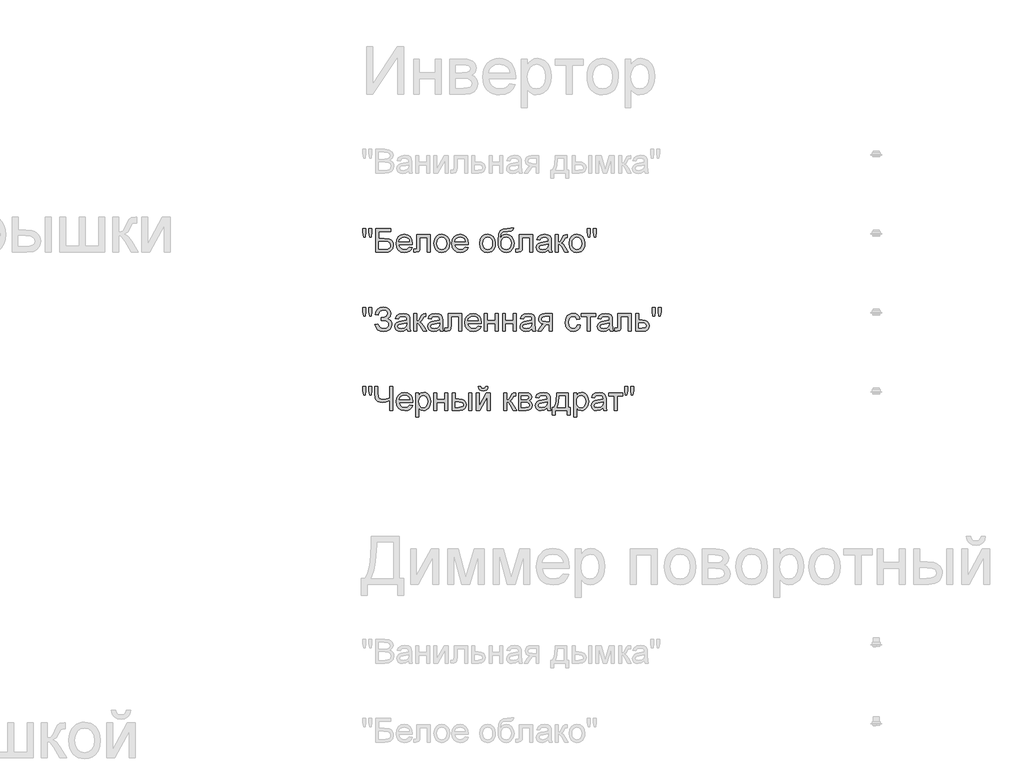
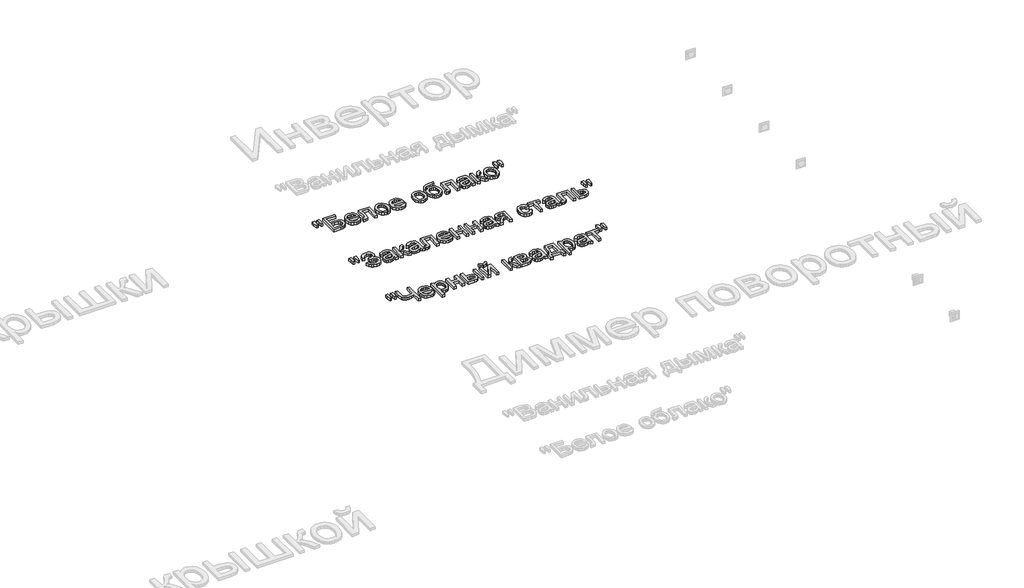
# One storey, part 164 of 168: 3 proxies.
"""IFC4 building model written with IfcOpenShell, lengths in millimetres."""

from ifc_helpers import new_model, si_unit, origin, origin_with_axes, place, context, project, spatial, polyline, outline, extrude, element, save

model = new_model("IFC4")

# Units and contexts
model_context = context("Model", 3, world=origin())
ifc_project = project(units=[si_unit("LENGTHUNIT", "METRE", prefix="MILLI")], contexts=[model_context])

# Site, building, storey
site = spatial("IfcSite", under=ifc_project)
building = spatial("IfcBuilding", under=site)
storey = spatial("IfcBuildingStorey", under=building, Name="Этаж 01", Elevation=0.0)

# Proxies
placement = place(None, origin())
element("IfcBuildingElementProxy", 1, Name="150", ObjectType="150", at=placement, inside=storey, context=model_context, shape_type="SweptSolid", body=[
    extrude(outline(polyline([(71080.1485789, -5951.873446), (71075.550054, -5922.7739802), (71075.550054, -5897.7212163), (71094.3856121, -5897.7212163), (71094.3856121, -5922.7739802), (71090.2653338, -5951.873446), (71080.1485789, -5951.873446)])), origin_with_axes(), (0.0, 0.0, 1.0), 20.0),
    extrude(outline(polyline([(71117.7093306, -5951.873446), (71113.2211703, -5922.7739802), (71113.2211703, -5897.7212163), (71132.0567284, -5897.7212163), (71132.0567284, -5922.7739802), (71127.6421445, -5951.873446), (71117.7093306, -5951.873446)])), origin_with_axes(), (0.0, 0.0, 1.0), 20.0),
    extrude(outline(polyline([(71157.9556209, -5897.7212163), (71252.1334117, -5897.7212163), (71252.1334117, -5916.5567745), (71176.791179, -5916.5567745), (71176.791179, -5961.2912251), (71212.0710624, -5961.2912251), (71243.157091, -5965.1171979), (71253.5589544, -5970.6446248), (71261.6615553, -5979.5749603), (71266.8762826, -5991.0712726), (71268.614525, -6004.2966303), (71263.6665122, -6025.7625448), (71248.8960501, -6042.0781113), (71235.6247071, -6046.823789), (71215.4555767, -6048.4056816), (71157.9556209, -6048.4056816), (71157.9556209, -5897.7212163)]), holes=[polyline([(71176.791179, -6029.5701234), (71217.1478339, -6029.5701234), (71231.4124583, -6028.015822), (71241.6119866, -6023.3529177), (71247.7372218, -6015.5814105), (71249.7789669, -6004.7013005), (71245.1068655, -5989.9492325), (71232.102237, -5982.0765578), (71203.7201411, -5980.1267833), (71176.791179, -5980.1267833), (71176.791179, -6029.5701234)])]), origin_with_axes(), (0.0, 0.0, 1.0), 20.0),
    extrude(outline(polyline([(71369.6349209, -6015.4434548), (71388.1025971, -6017.7978996), (71381.4485315, -6031.713036), (71370.8305374, -6042.1148995), (71356.4877381, -6048.5988196), (71338.6592569, -6050.7601263), (71316.5587461, -6047.0307226), (71299.5534008, -6035.8425114), (71288.710079, -6017.9220597), (71285.0956384, -5993.9959345), (71288.7468672, -5969.2650674), (71299.7005536, -5950.7698), (71316.4759726, -5939.2366995), (71337.5923991, -5935.3923327), (71358.0512366, -5939.2275025), (71374.3989927, -5950.7330118), (71385.1181544, -5969.191491), (71388.6912083, -5993.8855699), (71388.5808437, -5998.9623414), (71303.9311966, -5998.9623414), (71307.1915508, -6013.0614189), (71314.7653213, -6023.4264941), (71325.6960151, -6029.8000497), (71339.0271389, -6031.9245682), (71357.4948151, -6027.9882308), (71369.6349209, -6015.4434548)]), holes=[polyline([(71303.9311966, -5980.1267833), (71369.8556501, -5980.1267833), (71367.3080673, -5970.1755753), (71362.3140692, -5963.0570587), (71351.3327917, -5956.4351828), (71337.5188227, -5954.2278908), (71324.8222954, -5955.9891259), (71314.3238629, -5961.272831), (71307.0260039, -5969.5087892), (71303.9311966, -5980.1267833)])]), origin_with_axes(), (0.0, 0.0, 1.0), 20.0),
    extrude(outline(polyline([(71416.9445455, -5937.7467774), (71501.7045572, -5937.7467774), (71501.7045572, -6048.295317), (71482.868999, -6048.295317), (71482.868999, -5956.5823356), (71435.7801036, -5956.5823356), (71435.7801036, -6009.3734019), (71434.5109108, -6033.72719), (71427.539547, -6044.0094917), (71411.0584336, -6048.4056816), (71395.7545426, -6047.4491884), (71395.7545426, -6029.5701234), (71404.1790403, -6029.5701234), (71412.6955084, -6028.4112951), (71416.0984169, -6024.7324752), (71416.9445455, -6008.3065441), (71416.9445455, -5937.7467774)])), origin_with_axes(), (0.0, 0.0, 1.0), 20.0),
    extrude(outline(polyline([(71525.2490049, -5993.0762295), (71529.323298, -5966.3955878), (71541.5461773, -5947.6428031), (71556.6477332, -5938.4549503), (71574.7291332, -5935.3923327), (71594.516586, -5939.1217364), (71610.3217163, -5950.3099476), (71620.6821929, -5968.0740494), (71624.1356852, -5991.5311251), (71622.6089749, -6010.5598213), (71618.0288441, -6025.0451749), (71610.5286499, -6035.8930952), (71600.2417496, -6044.0094917), (71588.0234688, -6049.0724677), (71574.7291332, -6050.7601263), (71554.7025571, -6047.0445182), (71538.915821, -6035.8976937), (71528.6657089, -6017.7611114), (71525.2490049, -5993.0762295)]), holes=[polyline([(71544.084563, -5993.0394413), (71546.2642638, -6010.0861732), (71552.8033663, -6022.2308776), (71562.6442097, -6029.5011455), (71574.7291332, -6031.9245682), (71586.7588745, -6029.48735), (71596.5813237, -6022.1756953), (71603.1204262, -6009.8700426), (71605.300127, -5992.4508301), (71603.1066306, -5975.9007388), (71596.5261414, -5963.9215814), (71586.6898966, -5956.6513134), (71574.7291332, -5954.2278908), (71562.6442097, -5956.6421164), (71552.8033663, -5963.8847932), (71546.2642638, -5976.0019064), (71544.084563, -5993.0394413)])]), origin_with_axes(), (0.0, 0.0, 1.0), 20.0),
    extrude(outline(polyline([(71722.8016363, -6015.4434548), (71741.2693124, -6017.7978996), (71734.6152469, -6031.713036), (71723.9972528, -6042.1148995), (71709.6544535, -6048.5988196), (71691.8259723, -6050.7601263), (71669.7254614, -6047.0307226), (71652.7201162, -6035.8425114), (71641.8767944, -6017.9220597), (71638.2623538, -5993.9959345), (71641.9135826, -5969.2650674), (71652.867269, -5950.7698), (71669.642688, -5939.2366995), (71690.7591145, -5935.3923327), (71711.217952, -5939.2275025), (71727.5657081, -5950.7330118), (71738.2848698, -5969.191491), (71741.8579236, -5993.8855699), (71741.747559, -5998.9623414), (71657.0979119, -5998.9623414), (71660.3582661, -6013.0614189), (71667.9320367, -6023.4264941), (71678.8627305, -6029.8000497), (71692.1938543, -6031.9245682), (71710.6615304, -6027.9882308), (71722.8016363, -6015.4434548)]), holes=[polyline([(71657.0979119, -5980.1267833), (71723.0223655, -5980.1267833), (71720.4747827, -5970.1755753), (71715.4807846, -5963.0570587), (71704.499507, -5956.4351828), (71690.6855381, -5954.2278908), (71677.9890107, -5955.9891259), (71667.4905783, -5961.272831), (71660.1927192, -5969.5087892), (71657.0979119, -5980.1267833)])]), origin_with_axes(), (0.0, 0.0, 1.0), 20.0),
    extrude(outline(polyline([(71814.8457115, -5993.0762295), (71818.9200046, -5966.3955878), (71831.1428839, -5947.6428031), (71846.2444398, -5938.4549503), (71864.3258398, -5935.3923327), (71884.1132926, -5939.1217364), (71899.9184229, -5950.3099476), (71910.2788995, -5968.0740494), (71913.7323918, -5991.5311251), (71912.2056815, -6010.5598213), (71907.6255507, -6025.0451749), (71900.1253565, -6035.8930952), (71889.8384562, -6044.0094917), (71877.6201754, -6049.0724677), (71864.3258398, -6050.7601263), (71844.2992637, -6047.0445182), (71828.5125276, -6035.8976937), (71818.2624155, -6017.7611114), (71814.8457115, -5993.0762295)]), holes=[polyline([(71833.6812696, -5993.0394413), (71835.8609704, -6010.0861732), (71842.4000729, -6022.2308776), (71852.2409163, -6029.5011455), (71864.3258398, -6031.9245682), (71876.3555811, -6029.48735), (71886.1780303, -6022.1756953), (71892.7171328, -6009.8700426), (71894.8968336, -5992.4508301), (71892.7033372, -5975.9007388), (71886.122848, -5963.9215814), (71876.2866032, -5956.6513134), (71864.3258398, -5954.2278908), (71852.2409163, -5956.6421164), (71842.4000729, -5963.8847932), (71835.8609704, -5976.0019064), (71833.6812696, -5993.0394413)])]), origin_with_axes(), (0.0, 0.0, 1.0), 20.0),
    extrude(outline(polyline([(72012.6190721, -5895.3667716), (72029.1001855, -5895.3667716), (72024.2441431, -5910.0636573), (72014.6424231, -5915.3795521), (71991.576222, -5916.5567745), (71960.5085875, -5920.897782), (71953.3808738, -5926.5447707), (71948.5892108, -5934.8037215), (71944.560903, -5959.4150269), (71960.8764695, -5941.3888092), (71970.7954878, -5936.8914518), (71981.9009255, -5935.3923327), (72001.4998388, -5939.2045098), (72017.401538, -5950.6410414), (72027.9413572, -5968.5798871), (72031.4546302, -5991.8990071), (72029.7117893, -6009.8792396), (72024.4832664, -6024.3094109), (72007.9469707, -6043.8623389), (71996.6529935, -6049.0356795), (71981.9009255, -6050.7601263), (71964.9001788, -6048.5390388), (71952.1576662, -6041.8757762), (71942.7812738, -6031.7498242), (71935.8788879, -6019.1406689), (71931.6298508, -6000.1533594), (71930.2135052, -5970.8929452), (71933.786559, -5934.7531377), (71944.5057207, -5912.7124076), (71962.6377045, -5901.4690142), (71988.449225, -5897.7212163), (72009.4184987, -5897.2981521), (72012.6190721, -5895.3667716)]), holes=[polyline([(72012.6190721, -5991.3103959), (72010.577327, -5976.48935), (72004.4520918, -5964.6205572), (71994.6112484, -5956.8260574), (71981.4226789, -5954.2278908), (71967.6730893, -5956.9732102), (71957.473561, -5965.2091684), (71951.1551877, -5978.0344544), (71949.0490633, -5994.5477575), (71951.3759169, -6010.5552228), (71958.3564778, -6022.304454), (71968.7491442, -6029.5195396), (71981.3123143, -6031.9245682), (71993.9398638, -6029.1424606), (72003.937057, -6020.7961378), (72010.4485683, -6007.8604872), (72012.6190721, -5991.3103959)])]), origin_with_axes(), (0.0, 0.0, 1.0), 20.0),
    extrude(outline(polyline([(72064.416857, -5937.7467774), (72149.1768687, -5937.7467774), (72149.1768687, -6048.295317), (72130.3413105, -6048.295317), (72130.3413105, -5956.5823356), (72083.2524152, -5956.5823356), (72083.2524152, -6009.3734019), (72081.9832223, -6033.72719), (72075.0118585, -6044.0094917), (72058.5307451, -6048.4056816), (72043.2268541, -6047.4491884), (72043.2268541, -6029.5701234), (72051.6513518, -6029.5701234), (72060.16782, -6028.4112951), (72063.5707284, -6024.7324752), (72064.416857, -6008.3065441), (72064.416857, -5937.7467774)])), origin_with_axes(), (0.0, 0.0, 1.0), 20.0),
    extrude(outline(polyline([(72248.063549, -6034.279013), (72229.7982079, -6047.0445182), (72209.6198805, -6050.7601263), (72193.8791296, -6048.5252432), (72182.2678542, -6041.8205939), (72175.1079508, -6031.6394596), (72172.7213164, -6018.975122), (72176.3265599, -6004.0759012), (72185.7995213, -5993.2601705), (72198.9880908, -5987.079753), (72215.2852632, -5984.2470616), (72247.9531844, -5977.7723385), (72248.063549, -5973.5784838), (72246.766765, -5965.1723802), (72242.8764129, -5959.6725443), (72234.1760037, -5955.5890542), (72222.0542919, -5954.2278908), (72202.9980046, -5957.8515285), (72193.9113193, -5970.7090042), (72175.0757612, -5968.3545594), (72183.2243473, -5949.9604597), (72199.6318843, -5939.1815172), (72224.4823131, -5935.3923327), (72247.3093909, -5938.7400588), (72260.2036548, -5947.1461624), (72265.9794022, -5959.9300617), (72266.8991071, -5976.4111751), (72266.8991071, -5999.8452582), (72267.8556003, -6032.5683617), (72271.6079967, -6048.4056816), (72252.7724385, -6048.4056816), (72248.063549, -6034.279013)]), holes=[polyline([(72248.063549, -5996.6078966), (72217.6764962, -6002.383644), (72201.4712943, -6005.4370645), (72194.1320485, -6010.4034715), (72191.5568745, -6017.6507468), (72197.167075, -6027.841078), (72213.6297942, -6031.9245682), (72232.6860816, -6027.4180137), (72244.9733402, -6016.5103126), (72247.9531844, -6001.9421856), (72248.063549, -5996.6078966)])]), origin_with_axes(), (0.0, 0.0, 1.0), 20.0),
    extrude(outline(polyline([(72292.7979996, -5937.7467774), (72311.6335578, -5937.7467774), (72311.6335578, -5984.8356728), (72324.2519102, -5981.4511584), (72334.5893943, -5961.7326835), (72343.1794388, -5944.7181412), (72350.7578079, -5939.1815172), (72364.5349887, -5937.7467774), (72368.1402322, -5937.7467774), (72368.1402322, -5956.6927002), (72363.0634607, -5956.5823356), (72353.8664108, -5958.5688983), (72347.3916877, -5970.9665216), (72339.7949245, -5984.3758203), (72329.1447407, -5990.9425139), (72341.0273292, -5998.2725627), (72352.6891884, -6013.7144094), (72372.8491218, -6048.4056816), (72351.4383896, -6048.4056816), (72331.6831265, -6014.4501734), (72321.7503126, -6000.0843815), (72311.6335578, -5996.6078966), (72311.6335578, -6048.4056816), (72292.7979996, -6048.4056816), (72292.7979996, -5937.7467774)])), origin_with_axes(), (0.0, 0.0, 1.0), 20.0),
    extrude(outline(polyline([(72379.9124561, -5993.0762295), (72383.9867492, -5966.3955878), (72396.2096285, -5947.6428031), (72411.3111844, -5938.4549503), (72429.3925844, -5935.3923327), (72449.1800372, -5939.1217364), (72464.9851674, -5950.3099476), (72475.3456441, -5968.0740494), (72478.7991364, -5991.5311251), (72477.2724261, -6010.5598213), (72472.6922952, -6025.0451749), (72465.1921011, -6035.8930952), (72454.9052008, -6044.0094917), (72442.68692, -6049.0724677), (72429.3925844, -6050.7601263), (72409.3660083, -6047.0445182), (72393.5792722, -6035.8976937), (72383.3291601, -6017.7611114), (72379.9124561, -5993.0762295)]), holes=[polyline([(72398.7480142, -5993.0394413), (72400.927715, -6010.0861732), (72407.4668175, -6022.2308776), (72417.3076609, -6029.5011455), (72429.3925844, -6031.9245682), (72441.4223257, -6029.48735), (72451.2447749, -6022.1756953), (72457.7838774, -6009.8700426), (72459.9635782, -5992.4508301), (72457.7700818, -5975.9007388), (72451.1895926, -5963.9215814), (72441.3533478, -5956.6513134), (72429.3925844, -5954.2278908), (72417.3076609, -5956.6421164), (72407.4668175, -5963.8847932), (72400.927715, -5976.0019064), (72398.7480142, -5993.0394413)])]), origin_with_axes(), (0.0, 0.0, 1.0), 20.0),
    extrude(outline(polyline([(72499.8787747, -5951.873446), (72495.2802498, -5922.7739802), (72495.2802498, -5897.7212163), (72514.1158079, -5897.7212163), (72514.1158079, -5922.7739802), (72509.9955296, -5951.873446), (72499.8787747, -5951.873446)])), origin_with_axes(), (0.0, 0.0, 1.0), 20.0),
    extrude(outline(polyline([(72537.4395264, -5951.873446), (72532.9513661, -5922.7739802), (72532.9513661, -5897.7212163), (72551.7869242, -5897.7212163), (72551.7869242, -5922.7739802), (72547.3723403, -5951.873446), (72537.4395264, -5951.873446)])), origin_with_axes(), (0.0, 0.0, 1.0), 20.0),
])
element("IfcBuildingElementProxy", 2, Name="150", ObjectType="150", at=placement, inside=storey, context=model_context, shape_type="SweptSolid", body=[
    extrude(outline(polyline([(71080.1485789, -6451.873446), (71075.550054, -6422.7739802), (71075.550054, -6397.7212163), (71094.3856121, -6397.7212163), (71094.3856121, -6422.7739802), (71090.2653338, -6451.873446), (71080.1485789, -6451.873446)])), origin_with_axes(), (0.0, 0.0, 1.0), 20.0),
    extrude(outline(polyline([(71117.7093306, -6451.873446), (71113.2211703, -6422.7739802), (71113.2211703, -6397.7212163), (71132.0567284, -6397.7212163), (71132.0567284, -6422.7739802), (71127.6421445, -6451.873446), (71117.7093306, -6451.873446)])), origin_with_axes(), (0.0, 0.0, 1.0), 20.0),
    extrude(outline(polyline([(71150.8922866, -6506.0256757), (71169.7278447, -6501.3167862), (71181.2977335, -6521.7158428), (71192.2284273, -6529.3723868), (71206.2217387, -6531.9245682), (71220.398991, -6530.0069833), (71231.2193202, -6524.2542286), (71238.0757209, -6515.7883442), (71240.3611878, -6505.7313701), (71237.8641888, -6495.1961495), (71230.3731916, -6487.0613589), (71218.5779752, -6481.8604272), (71203.1683181, -6480.1267833), (71193.2722924, -6480.1267833), (71193.2722924, -6461.2912251), (71214.591054, -6459.7645148), (71227.6324708, -6451.9654165), (71233.2978535, -6437.7099892), (71231.4124583, -6428.8394346), (71225.7562726, -6421.2104817), (71216.8811195, -6415.9543677), (71205.3388219, -6414.2023297), (71186.1169876, -6419.591801), (71175.117316, -6433.8840165), (71172.0822895, -6447.1645565), (71153.2467313, -6442.455667), (71159.0983543, -6421.8542752), (71169.7002536, -6407.1389954), (71185.0524291, -6398.3098275), (71205.1548809, -6395.3667716), (71224.5468605, -6398.4247907), (71239.4598769, -6407.5988479), (71248.965028, -6420.8655924), (71252.1334117, -6436.201673), (71247.2037929, -6454.8440931), (71232.4149367, -6468.7592296), (71242.8903765, -6473.5830823), (71251.5080123, -6481.7270699), (71257.2745625, -6492.4922168), (71259.196746, -6505.1795471), (71255.508729, -6523.0172254), (71244.444678, -6537.6819214), (71227.2921799, -6547.4905751), (71205.3388219, -6550.7601263), (71186.2365493, -6547.9642232), (71170.7947025, -6539.5765137), (71159.0132816, -6525.5969979), (71150.8922866, -6506.0256757)])), origin_with_axes(), (0.0, 0.0, 1.0), 20.0),
    extrude(outline(polyline([(71353.3745367, -6534.279013), (71335.1091957, -6547.0445182), (71314.9308682, -6550.7601263), (71299.1901174, -6548.5252432), (71287.5788419, -6541.8205939), (71280.4189386, -6531.6394596), (71278.0323041, -6518.975122), (71281.6375477, -6504.0759012), (71291.110509, -6493.2601705), (71304.2990786, -6487.079753), (71320.596251, -6484.2470616), (71353.2641721, -6477.7723385), (71353.3745367, -6473.5784838), (71352.0777527, -6465.1723802), (71348.1874006, -6459.6725443), (71339.4869914, -6455.5890542), (71327.3652797, -6454.2278908), (71308.3089923, -6457.8515285), (71299.222307, -6470.7090042), (71280.3867489, -6468.3545594), (71288.5353351, -6449.9604597), (71304.9428721, -6439.1815172), (71329.7933008, -6435.3923327), (71352.6203786, -6438.7400588), (71365.5146426, -6447.1461624), (71371.2903899, -6459.9300617), (71372.2100949, -6476.4111751), (71372.2100949, -6499.8452582), (71373.1665881, -6532.5683617), (71376.9189844, -6548.4056816), (71358.0834263, -6548.4056816), (71353.3745367, -6534.279013)]), holes=[polyline([(71353.3745367, -6496.6078966), (71322.9874839, -6502.383644), (71306.782282, -6505.4370645), (71299.4430362, -6510.4034715), (71296.8678623, -6517.6507468), (71302.4780627, -6527.841078), (71318.940782, -6531.9245682), (71337.9970693, -6527.4180137), (71350.284328, -6516.5103126), (71353.2641721, -6501.9421856), (71353.3745367, -6496.6078966)])]), origin_with_axes(), (0.0, 0.0, 1.0), 20.0),
    extrude(outline(polyline([(71398.1089873, -6437.7467774), (71416.9445455, -6437.7467774), (71416.9445455, -6484.8356728), (71429.5628979, -6481.4511584), (71439.900382, -6461.7326835), (71448.4904266, -6444.7181412), (71456.0687957, -6439.1815172), (71469.8459764, -6437.7467774), (71473.4512199, -6437.7467774), (71473.4512199, -6456.6927002), (71468.3744484, -6456.5823356), (71459.1773985, -6458.5688983), (71452.7026754, -6470.9665216), (71445.1059122, -6484.3758203), (71434.4557285, -6490.9425139), (71446.3383169, -6498.2725627), (71458.0001762, -6513.7144094), (71478.1601095, -6548.4056816), (71456.7493774, -6548.4056816), (71436.9941142, -6514.4501734), (71427.0613004, -6500.0843815), (71416.9445455, -6496.6078966), (71416.9445455, -6548.4056816), (71398.1089873, -6548.4056816), (71398.1089873, -6437.7467774)])), origin_with_axes(), (0.0, 0.0, 1.0), 20.0),
    extrude(outline(polyline([(71560.5656764, -6534.279013), (71542.3003353, -6547.0445182), (71522.1220079, -6550.7601263), (71506.381257, -6548.5252432), (71494.7699816, -6541.8205939), (71487.6100782, -6531.6394596), (71485.2234438, -6518.975122), (71488.8286873, -6504.0759012), (71498.3016487, -6493.2601705), (71511.4902183, -6487.079753), (71527.7873906, -6484.2470616), (71560.4553118, -6477.7723385), (71560.5656764, -6473.5784838), (71559.2688924, -6465.1723802), (71555.3785403, -6459.6725443), (71546.6781311, -6455.5890542), (71534.5564193, -6454.2278908), (71515.500132, -6457.8515285), (71506.4134467, -6470.7090042), (71487.5778886, -6468.3545594), (71495.7264748, -6449.9604597), (71512.1340117, -6439.1815172), (71536.9844405, -6435.3923327), (71559.8115183, -6438.7400588), (71572.7057822, -6447.1461624), (71578.4815296, -6459.9300617), (71579.4012346, -6476.4111751), (71579.4012346, -6499.8452582), (71580.3577277, -6532.5683617), (71584.1101241, -6548.4056816), (71565.2745659, -6548.4056816), (71560.5656764, -6534.279013)]), holes=[polyline([(71560.5656764, -6496.6078966), (71530.1786236, -6502.383644), (71513.9734217, -6505.4370645), (71506.6341759, -6510.4034715), (71504.0590019, -6517.6507468), (71509.6692024, -6527.841078), (71526.1319217, -6531.9245682), (71545.188209, -6527.4180137), (71557.4754676, -6516.5103126), (71560.4553118, -6501.9421856), (71560.5656764, -6496.6078966)])]), origin_with_axes(), (0.0, 0.0, 1.0), 20.0),
    extrude(outline(polyline([(71614.7179061, -6437.7467774), (71699.4779178, -6437.7467774), (71699.4779178, -6548.295317), (71680.6423596, -6548.295317), (71680.6423596, -6456.5823356), (71633.5534643, -6456.5823356), (71633.5534643, -6509.3734019), (71632.2842714, -6533.72719), (71625.3129076, -6544.0094917), (71608.8317942, -6548.4056816), (71593.5279032, -6547.4491884), (71593.5279032, -6529.5701234), (71601.9524009, -6529.5701234), (71610.4688691, -6528.4112951), (71613.8717775, -6524.7324752), (71614.7179061, -6508.3065441), (71614.7179061, -6437.7467774)])), origin_with_axes(), (0.0, 0.0, 1.0), 20.0),
    extrude(outline(polyline([(71805.2072032, -6515.4434548), (71823.6748794, -6517.7978996), (71817.0208138, -6531.713036), (71806.4028197, -6542.1148995), (71792.0600204, -6548.5988196), (71774.2315392, -6550.7601263), (71752.1310283, -6547.0307226), (71735.1256831, -6535.8425114), (71724.2823613, -6517.9220597), (71720.6679207, -6493.9959345), (71724.3191495, -6469.2650674), (71735.2728359, -6450.7698), (71752.0482549, -6439.2366995), (71773.1646814, -6435.3923327), (71793.6235189, -6439.2275025), (71809.971275, -6450.7330118), (71820.6904367, -6469.191491), (71824.2634906, -6493.8855699), (71824.153126, -6498.9623414), (71739.5034789, -6498.9623414), (71742.763833, -6513.0614189), (71750.3376036, -6523.4264941), (71761.2682974, -6529.8000497), (71774.5994212, -6531.9245682), (71793.0670974, -6527.9882308), (71805.2072032, -6515.4434548)]), holes=[polyline([(71739.5034789, -6480.1267833), (71805.4279324, -6480.1267833), (71802.8803496, -6470.1755753), (71797.8863515, -6463.0570587), (71786.9050739, -6456.4351828), (71773.091105, -6454.2278908), (71760.3945777, -6455.9891259), (71749.8961452, -6461.272831), (71742.5982861, -6469.5087892), (71739.5034789, -6480.1267833)])]), origin_with_axes(), (0.0, 0.0, 1.0), 20.0),
    extrude(outline(polyline([(71843.0990487, -6437.7467774), (71861.9346069, -6437.7467774), (71861.9346069, -6480.1267833), (71911.377947, -6480.1267833), (71911.377947, -6437.7467774), (71930.2135052, -6437.7467774), (71930.2135052, -6548.4056816), (71911.377947, -6548.4056816), (71911.377947, -6498.9623414), (71861.9346069, -6498.9623414), (71861.9346069, -6548.4056816), (71843.0990487, -6548.4056816), (71843.0990487, -6437.7467774)])), origin_with_axes(), (0.0, 0.0, 1.0), 20.0),
    extrude(outline(polyline([(71958.4668424, -6437.7467774), (71977.3024005, -6437.7467774), (71977.3024005, -6480.1267833), (72026.7457407, -6480.1267833), (72026.7457407, -6437.7467774), (72045.5812988, -6437.7467774), (72045.5812988, -6548.4056816), (72026.7457407, -6548.4056816), (72026.7457407, -6498.9623414), (71977.3024005, -6498.9623414), (71977.3024005, -6548.4056816), (71958.4668424, -6548.4056816), (71958.4668424, -6437.7467774)])), origin_with_axes(), (0.0, 0.0, 1.0), 20.0),
    extrude(outline(polyline([(72144.4679792, -6534.279013), (72126.2026381, -6547.0445182), (72106.0243107, -6550.7601263), (72090.2835598, -6548.5252432), (72078.6722843, -6541.8205939), (72071.512381, -6531.6394596), (72069.1257465, -6518.975122), (72072.7309901, -6504.0759012), (72082.2039515, -6493.2601705), (72095.392521, -6487.079753), (72111.6896934, -6484.2470616), (72144.3576146, -6477.7723385), (72144.4679792, -6473.5784838), (72143.1711951, -6465.1723802), (72139.280843, -6459.6725443), (72130.5804338, -6455.5890542), (72118.4587221, -6454.2278908), (72099.4024347, -6457.8515285), (72090.3157495, -6470.7090042), (72071.4801913, -6468.3545594), (72079.6287775, -6449.9604597), (72096.0363145, -6439.1815172), (72120.8867433, -6435.3923327), (72143.7138211, -6438.7400588), (72156.608085, -6447.1461624), (72162.3838323, -6459.9300617), (72163.3035373, -6476.4111751), (72163.3035373, -6499.8452582), (72164.2600305, -6532.5683617), (72168.0124268, -6548.4056816), (72149.1768687, -6548.4056816), (72144.4679792, -6534.279013)]), holes=[polyline([(72144.4679792, -6496.6078966), (72114.0809264, -6502.383644), (72097.8757245, -6505.4370645), (72090.5364787, -6510.4034715), (72087.9613047, -6517.6507468), (72093.5715051, -6527.841078), (72110.0342244, -6531.9245682), (72129.0905118, -6527.4180137), (72141.3777704, -6516.5103126), (72144.3576146, -6501.9421856), (72144.4679792, -6496.6078966)])]), origin_with_axes(), (0.0, 0.0, 1.0), 20.0),
    extrude(outline(polyline([(72273.9624415, -6437.7467774), (72273.9624415, -6548.4056816), (72255.1268833, -6548.4056816), (72255.1268833, -6506.0256757), (72244.8629756, -6506.0256757), (72230.8834598, -6508.4169087), (72217.7500726, -6524.4933519), (72202.7404872, -6548.4056816), (72180.9618731, -6548.4056816), (72199.8710076, -6518.1657816), (72208.2219289, -6507.3132627), (72215.9106626, -6502.4940086), (72203.0347928, -6498.5484742), (72193.9848957, -6491.0528785), (72188.6322127, -6481.0832765), (72186.847985, -6469.7157228), (72189.2852032, -6456.8214589), (72196.5968579, -6446.6127335), (72208.5254316, -6439.9632664), (72224.8134069, -6437.7467774), (72273.9624415, -6437.7467774)]), holes=[polyline([(72255.1268833, -6456.5823356), (72230.2948486, -6456.5823356), (72217.4695626, -6457.672186), (72210.1900976, -6460.9417372), (72205.6835431, -6471.1504626), (72207.3436107, -6478.32876), (72212.3238132, -6483.3089625), (72235.8498668, -6487.1901176), (72255.1268833, -6487.1901176), (72255.1268833, -6456.5823356)])]), origin_with_axes(), (0.0, 0.0, 1.0), 20.0),
    extrude(outline(polyline([(72431.710241, -6508.3801205), (72450.5457991, -6510.7345653), (72445.2942837, -6527.4869916), (72435.4258491, -6540.1467308), (72421.8693976, -6548.1067774), (72405.5538311, -6550.7601263), (72385.518058, -6547.0583138), (72369.8508835, -6535.952876), (72359.7387272, -6517.9312568), (72356.3680084, -6493.4808997), (72357.8073467, -6476.7192763), (72362.1253616, -6462.192536), (72369.391031, -6450.4616989), (72379.6733328, -6442.087785), (72391.974387, -6437.0661957), (72405.2963137, -6435.3923327), (72421.2118085, -6437.6915951), (72433.9359271, -6444.5893825), (72443.0639991, -6455.7178129), (72448.1913544, -6470.7090042), (72429.3557962, -6473.063449), (72420.6185988, -6458.9551744), (72405.4434665, -6454.2278908), (72393.271171, -6456.5547444), (72383.6096701, -6463.5353053), (72377.3050924, -6475.5466524), (72375.2035665, -6492.9658649), (72377.2591072, -6510.6196021), (72383.4257291, -6522.672336), (72392.9124861, -6529.6115101), (72404.9284317, -6531.9245682), (72414.6819031, -6530.4806314), (72422.678738, -6526.1488209), (72428.4958721, -6518.8187721), (72431.710241, -6508.3801205)])), origin_with_axes(), (0.0, 0.0, 1.0), 20.0),
    extrude(outline(polyline([(72457.6091334, -6437.7467774), (72547.0780347, -6437.7467774), (72547.0780347, -6456.5823356), (72511.7613631, -6456.5823356), (72511.7613631, -6548.4056816), (72492.925805, -6548.4056816), (72492.925805, -6456.5823356), (72457.6091334, -6456.5823356), (72457.6091334, -6437.7467774)])), origin_with_axes(), (0.0, 0.0, 1.0), 20.0),
    extrude(outline(polyline([(72634.1924911, -6534.279013), (72615.9271501, -6547.0445182), (72595.7488226, -6550.7601263), (72580.0080718, -6548.5252432), (72568.3967963, -6541.8205939), (72561.236893, -6531.6394596), (72558.8502585, -6518.975122), (72562.4555021, -6504.0759012), (72571.9284634, -6493.2601705), (72585.117033, -6487.079753), (72601.4142054, -6484.2470616), (72634.0821265, -6477.7723385), (72634.1924911, -6473.5784838), (72632.8957071, -6465.1723802), (72629.005355, -6459.6725443), (72620.3049458, -6455.5890542), (72608.1832341, -6454.2278908), (72589.1269467, -6457.8515285), (72580.0402614, -6470.7090042), (72561.2047033, -6468.3545594), (72569.3532895, -6449.9604597), (72585.7608265, -6439.1815172), (72610.6112552, -6435.3923327), (72633.438333, -6438.7400588), (72646.332597, -6447.1461624), (72652.1083443, -6459.9300617), (72653.0280493, -6476.4111751), (72653.0280493, -6499.8452582), (72653.9845425, -6532.5683617), (72657.7369388, -6548.4056816), (72638.9013807, -6548.4056816), (72634.1924911, -6534.279013)]), holes=[polyline([(72634.1924911, -6496.6078966), (72603.8054383, -6502.383644), (72587.6002364, -6505.4370645), (72580.2609906, -6510.4034715), (72577.6858167, -6517.6507468), (72583.2960171, -6527.841078), (72599.7587364, -6531.9245682), (72618.8150237, -6527.4180137), (72631.1022824, -6516.5103126), (72634.0821265, -6501.9421856), (72634.1924911, -6496.6078966)])]), origin_with_axes(), (0.0, 0.0, 1.0), 20.0),
    extrude(outline(polyline([(72688.3447208, -6437.7467774), (72773.1047325, -6437.7467774), (72773.1047325, -6548.295317), (72754.2691744, -6548.295317), (72754.2691744, -6456.5823356), (72707.180279, -6456.5823356), (72707.180279, -6509.3734019), (72705.9110861, -6533.72719), (72698.9397223, -6544.0094917), (72682.4586089, -6548.4056816), (72667.1547179, -6547.4491884), (72667.1547179, -6529.5701234), (72675.5792156, -6529.5701234), (72684.0956838, -6528.4112951), (72687.4985922, -6524.7324752), (72688.3447208, -6508.3065441), (72688.3447208, -6437.7467774)])), origin_with_axes(), (0.0, 0.0, 1.0), 20.0),
    extrude(outline(polyline([(72801.3580697, -6437.7467774), (72820.1936279, -6437.7467774), (72820.1936279, -6477.7723385), (72841.8986656, -6477.7723385), (72860.7158297, -6480.1313818), (72874.6401632, -6487.2085117), (72883.2486019, -6498.433511), (72886.1180814, -6513.2361628), (72883.6762647, -6526.7144394), (72876.3508145, -6538.0865916), (72863.6542871, -6545.8259091), (72845.099239, -6548.4056816), (72801.3580697, -6548.4056816), (72801.3580697, -6437.7467774)]), holes=[polyline([(72820.1936279, -6529.5701234), (72837.7783873, -6529.5701234), (72860.4951005, -6525.615392), (72865.5856676, -6520.552416), (72867.2825233, -6513.272951), (72862.260934, -6501.6846682), (72854.1905228, -6497.8770895), (72840.0224674, -6496.6078966), (72820.1936279, -6496.6078966), (72820.1936279, -6529.5701234)])]), origin_with_axes(), (0.0, 0.0, 1.0), 20.0),
    extrude(outline(polyline([(72909.5521645, -6451.873446), (72904.9536396, -6422.7739802), (72904.9536396, -6397.7212163), (72923.7891977, -6397.7212163), (72923.7891977, -6422.7739802), (72919.6689194, -6451.873446), (72909.5521645, -6451.873446)])), origin_with_axes(), (0.0, 0.0, 1.0), 20.0),
    extrude(outline(polyline([(72947.1129162, -6451.873446), (72942.6247559, -6422.7739802), (72942.6247559, -6397.7212163), (72961.460314, -6397.7212163), (72961.460314, -6422.7739802), (72957.0457301, -6451.873446), (72947.1129162, -6451.873446)])), origin_with_axes(), (0.0, 0.0, 1.0), 20.0),
])
element("IfcBuildingElementProxy", 3, Name="150", ObjectType="150", at=placement, inside=storey, context=model_context, shape_type="SweptSolid", body=[
    extrude(outline(polyline([(71080.1485789, -6951.873446), (71075.550054, -6922.7739802), (71075.550054, -6897.7212163), (71094.3856121, -6897.7212163), (71094.3856121, -6922.7739802), (71090.2653338, -6951.873446), (71080.1485789, -6951.873446)])), origin_with_axes(), (0.0, 0.0, 1.0), 20.0),
    extrude(outline(polyline([(71117.7093306, -6951.873446), (71113.2211703, -6922.7739802), (71113.2211703, -6897.7212163), (71132.0567284, -6897.7212163), (71132.0567284, -6922.7739802), (71127.6421445, -6951.873446), (71117.7093306, -6951.873446)])), origin_with_axes(), (0.0, 0.0, 1.0), 20.0),
    extrude(outline(polyline([(71263.9056355, -7048.4056816), (71245.0700773, -7048.4056816), (71245.0700773, -6988.0730344), (71220.0908899, -6996.2400147), (71198.4226404, -6998.9623414), (71183.7395502, -6997.0999388), (71170.886673, -6991.512731), (71160.926268, -6983.0606422), (71154.9205944, -6972.6035965), (71150.8922866, -6942.6028198), (71150.8922866, -6897.7212163), (71169.7278447, -6897.7212163), (71169.7278447, -6940.064434), (71171.990319, -6960.4313009), (71178.7777418, -6972.3828673), (71188.7381468, -6978.1908043), (71200.5195677, -6980.1267833), (71222.2521966, -6977.7907326), (71245.0700773, -6970.7825806), (71245.0700773, -6897.7212163), (71263.9056355, -6897.7212163), (71263.9056355, -7048.4056816)])), origin_with_axes(), (0.0, 0.0, 1.0), 20.0),
    extrude(outline(polyline([(71371.9893657, -7015.4434548), (71390.4570418, -7017.7978996), (71383.8029763, -7031.713036), (71373.1849822, -7042.1148995), (71358.8421829, -7048.5988196), (71341.0137017, -7050.7601263), (71318.9131908, -7047.0307226), (71301.9078456, -7035.8425114), (71291.0645238, -7017.9220597), (71287.4500832, -6993.9959345), (71291.101312, -6969.2650674), (71302.0549984, -6950.7698), (71318.8304174, -6939.2366995), (71339.9468439, -6935.3923327), (71360.4056814, -6939.2275025), (71376.7534375, -6950.7330118), (71387.4725992, -6969.191491), (71391.045653, -6993.8855699), (71390.9352884, -6998.9623414), (71306.2856413, -6998.9623414), (71309.5459955, -7013.0614189), (71317.1197661, -7023.4264941), (71328.0504599, -7029.8000497), (71341.3815837, -7031.9245682), (71359.8492598, -7027.9882308), (71371.9893657, -7015.4434548)]), holes=[polyline([(71306.2856413, -6980.1267833), (71372.2100949, -6980.1267833), (71369.6625121, -6970.1755753), (71364.668514, -6963.0570587), (71353.6872364, -6956.4351828), (71339.8732675, -6954.2278908), (71327.1767401, -6955.9891259), (71316.6783077, -6961.272831), (71309.3804486, -6969.5087892), (71306.2856413, -6980.1267833)])]), origin_with_axes(), (0.0, 0.0, 1.0), 20.0),
    extrude(outline(polyline([(71409.8812112, -7090.7856874), (71409.8812112, -6937.7467774), (71428.7167693, -6937.7467774), (71428.7167693, -6956.2144536), (71441.739792, -6940.5978629), (71459.3245513, -6935.3923327), (71472.0624654, -6937.2133485), (71483.2000928, -6942.6763962), (71492.268384, -6951.4503817), (71498.7982894, -6963.2042115), (71504.0590019, -6992.2301009), (71502.5736784, -7008.3387338), (71498.1177077, -7022.7459124), (71490.8336442, -7034.7204713), (71480.8640422, -7043.5312451), (71469.2527667, -7048.952906), (71457.043683, -7050.7601263), (71440.6545401, -7045.9224781), (71428.7167693, -7033.6904018), (71428.7167693, -7090.7856874), (71409.8812112, -7090.7856874)]), holes=[polyline([(71428.7167693, -6993.9591463), (71430.7539159, -7010.8449299), (71436.8653555, -7022.6539419), (71445.8830629, -7029.6069116), (71456.6390128, -7031.9245682), (71467.5697066, -7029.5241382), (71476.8173402, -7022.3228481), (71483.1219179, -7010.0815747), (71485.2234438, -6992.5611947), (71483.1725017, -6975.7673816), (71477.0196753, -6963.7928227), (71468.0157635, -6956.6191238), (71457.411565, -6954.2278908), (71446.7659797, -6956.7708751), (71437.4171785, -6964.399828), (71430.8918716, -6976.8756261), (71428.7167693, -6993.9591463)])]), origin_with_axes(), (0.0, 0.0, 1.0), 20.0),
    extrude(outline(polyline([(71525.2490049, -6937.7467774), (71544.084563, -6937.7467774), (71544.084563, -6980.1267833), (71593.5279032, -6980.1267833), (71593.5279032, -6937.7467774), (71612.3634613, -6937.7467774), (71612.3634613, -7048.4056816), (71593.5279032, -7048.4056816), (71593.5279032, -6998.9623414), (71544.084563, -6998.9623414), (71544.084563, -7048.4056816), (71525.2490049, -7048.4056816), (71525.2490049, -6937.7467774)])), origin_with_axes(), (0.0, 0.0, 1.0), 20.0),
    extrude(outline(polyline([(71744.2123684, -6937.7467774), (71763.0479266, -6937.7467774), (71763.0479266, -7048.4056816), (71744.2123684, -7048.4056816), (71744.2123684, -6937.7467774)])), origin_with_axes(), (0.0, 0.0, 1.0), 20.0),
    extrude(outline(polyline([(71640.6167986, -6937.7467774), (71659.4523567, -6937.7467774), (71659.4523567, -6977.7723385), (71682.739287, -6977.7723385), (71702.8670307, -6980.1313818), (71717.780047, -6987.2085117), (71727.0092866, -6998.433511), (71730.0856998, -7013.2361628), (71727.5059273, -7026.7144394), (71719.7666098, -7038.0865916), (71706.3619096, -7045.8259091), (71686.785989, -7048.4056816), (71640.6167986, -7048.4056816), (71640.6167986, -6937.7467774)]), holes=[polyline([(71659.4523567, -7029.5701234), (71678.8029497, -7029.5701234), (71703.7821371, -7025.615392), (71709.3831405, -7020.552416), (71711.2501416, -7013.272951), (71705.7135176, -7001.6846682), (71696.8337659, -6997.8770895), (71681.267759, -6996.6078966), (71659.4523567, -6996.6078966), (71659.4523567, -7029.5701234)])]), origin_with_axes(), (0.0, 0.0, 1.0), 20.0),
    extrude(outline(polyline([(71791.3012638, -6937.7467774), (71810.1368219, -6937.7467774), (71810.1368219, -7022.1389071), (71856.4163769, -6937.7467774), (71880.770165, -6937.7467774), (71880.770165, -7048.4056816), (71861.9346069, -7048.4056816), (71861.9346069, -6964.5285867), (71815.9493575, -7048.4056816), (71791.3012638, -7048.4056816), (71791.3012638, -6937.7467774)])), origin_with_axes(), (0.0, 0.0, 1.0), 20.0),
    extrude(outline(polyline([(71852.5168278, -6897.7212163), (71866.6434964, -6897.7212163), (71863.6038714, -6909.7831473), (71857.5016288, -6918.672096), (71848.6126801, -6924.1489392), (71837.2129368, -6925.9745536), (71824.8429047, -6924.1627347), (71815.2503817, -6918.7272783), (71808.6928851, -6909.8521251), (71805.4279324, -6897.7212163), (71819.554601, -6897.7212163), (71824.8521017, -6908.3346119), (71835.5206796, -6911.847885), (71847.219327, -6908.4449765), (71852.5168278, -6897.7212163)])), origin_with_axes(), (0.0, 0.0, 1.0), 20.0),
    extrude(outline(polyline([(71967.8846215, -6937.7467774), (71986.7201796, -6937.7467774), (71986.7201796, -6984.8356728), (71999.3385321, -6981.4511584), (72009.6760161, -6961.7326835), (72018.2660607, -6944.7181412), (72025.8444298, -6939.1815172), (72039.6216105, -6937.7467774), (72043.2268541, -6937.7467774), (72043.2268541, -6956.6927002), (72038.1500825, -6956.5823356), (72028.9530327, -6958.5688983), (72022.4783096, -6970.9665216), (72014.8815464, -6984.3758203), (72004.2313626, -6990.9425139), (72016.113951, -6998.2725627), (72027.7758103, -7013.7144094), (72047.9357436, -7048.4056816), (72026.5250115, -7048.4056816), (72006.7697484, -7014.4501734), (71996.8369345, -7000.0843815), (71986.7201796, -6996.6078966), (71986.7201796, -7048.4056816), (71967.8846215, -7048.4056816), (71967.8846215, -6937.7467774)])), origin_with_axes(), (0.0, 0.0, 1.0), 20.0),
    extrude(outline(polyline([(72059.7079675, -6937.7467774), (72101.2050565, -6937.7467774), (72123.9585579, -6940.2667691), (72136.7608514, -6949.5006072), (72142.1135344, -6965.5954445), (72138.8761728, -6978.6736494), (72129.1273, -6987.999458), (72141.7824406, -6998.2081833), (72146.8224239, -7015.9584896), (72143.6310476, -7030.3150845), (72136.0434815, -7040.4226423), (72124.0321343, -7046.4099217), (72107.569415, -7048.4056816), (72059.7079675, -7048.4056816), (72059.7079675, -6937.7467774)]), holes=[polyline([(72078.5435256, -6980.1267833), (72097.1583546, -6980.1267833), (72112.5174279, -6979.1702901), (72119.9854324, -6975.3443173), (72123.2779762, -6968.4281358), (72121.8340394, -6962.8087383), (72117.5022289, -6959.1942977), (72097.7469658, -6956.5823356), (72078.5435256, -6956.5823356), (72078.5435256, -6980.1267833)]), polyline([(72078.5435256, -7029.5701234), (72101.6465149, -7029.5701234), (72122.137542, -7026.167215), (72126.377382, -7021.5273033), (72127.9868658, -7014.4133852), (72124.7678983, -7005.345094), (72116.3801888, -7000.0659874), (72099.8071049, -6998.9623414), (72078.5435256, -6998.9623414), (72078.5435256, -7029.5701234)])]), origin_with_axes(), (0.0, 0.0, 1.0), 20.0),
    extrude(outline(polyline([(72241.0002147, -7034.279013), (72222.7348736, -7047.0445182), (72202.5565462, -7050.7601263), (72186.8157953, -7048.5252432), (72175.2045198, -7041.8205939), (72168.0446165, -7031.6394596), (72165.6579821, -7018.975122), (72169.2632256, -7004.0759012), (72178.736187, -6993.2601705), (72191.9247565, -6987.079753), (72208.2219289, -6984.2470616), (72240.8898501, -6977.7723385), (72241.0002147, -6973.5784838), (72239.7034307, -6965.1723802), (72235.8130786, -6959.6725443), (72227.1126694, -6955.5890542), (72214.9909576, -6954.2278908), (72195.9346703, -6957.8515285), (72186.847985, -6970.7090042), (72168.0124268, -6968.3545594), (72176.161013, -6949.9604597), (72192.56855, -6939.1815172), (72217.4189788, -6935.3923327), (72240.2460566, -6938.7400588), (72253.1403205, -6947.1461624), (72258.9160679, -6959.9300617), (72259.8357728, -6976.4111751), (72259.8357728, -6999.8452582), (72260.792266, -7032.5683617), (72264.5446624, -7048.4056816), (72245.7091042, -7048.4056816), (72241.0002147, -7034.279013)]), holes=[polyline([(72241.0002147, -6996.6078966), (72210.6131619, -7002.383644), (72194.40796, -7005.4370645), (72187.0687142, -7010.4034715), (72184.4935402, -7017.6507468), (72190.1037407, -7027.841078), (72206.5664599, -7031.9245682), (72225.6227473, -7027.4180137), (72237.9100059, -7016.5103126), (72240.8898501, -7001.9421856), (72241.0002147, -6996.6078966)])]), origin_with_axes(), (0.0, 0.0, 1.0), 20.0),
    extrude(outline(polyline([(72302.2157787, -6937.7467774), (72372.8491218, -6937.7467774), (72372.8491218, -7029.5701234), (72386.9757904, -7029.5701234), (72386.9757904, -7079.0134636), (72368.1402322, -7079.0134636), (72368.1402322, -7048.4056816), (72290.4435548, -7048.4056816), (72290.4435548, -7079.0134636), (72271.6079967, -7079.0134636), (72271.6079967, -7029.5701234), (72283.3802205, -7029.5701234), (72291.9380754, -7014.105284), (72297.9299534, -6993.6464466), (72302.2157787, -6937.7467774)]), holes=[polyline([(72318.6968921, -6956.5823356), (72314.2823081, -6999.4957703), (72304.5702235, -7029.5701234), (72354.0135636, -7029.5701234), (72354.0135636, -6956.5823356), (72318.6968921, -6956.5823356)])]), origin_with_axes(), (0.0, 0.0, 1.0), 20.0),
    extrude(outline(polyline([(72408.1657933, -7090.7856874), (72408.1657933, -6937.7467774), (72427.0013514, -6937.7467774), (72427.0013514, -6956.2144536), (72440.0243741, -6940.5978629), (72457.6091334, -6935.3923327), (72470.3470475, -6937.2133485), (72481.4846749, -6942.6763962), (72490.5529661, -6951.4503817), (72497.0828715, -6963.2042115), (72502.3435841, -6992.2301009), (72500.8582605, -7008.3387338), (72496.4022898, -7022.7459124), (72489.1182263, -7034.7204713), (72479.1486243, -7043.5312451), (72467.5373488, -7048.952906), (72455.3282651, -7050.7601263), (72438.9391222, -7045.9224781), (72427.0013514, -7033.6904018), (72427.0013514, -7090.7856874), (72408.1657933, -7090.7856874)]), holes=[polyline([(72427.0013514, -6993.9591463), (72429.038498, -7010.8449299), (72435.1499376, -7022.6539419), (72444.167645, -7029.6069116), (72454.9235949, -7031.9245682), (72465.8542887, -7029.5241382), (72475.1019223, -7022.3228481), (72481.4065, -7010.0815747), (72483.5080259, -6992.5611947), (72481.4570838, -6975.7673816), (72475.3042574, -6963.7928227), (72466.3003456, -6956.6191238), (72455.6961471, -6954.2278908), (72445.0505618, -6956.7708751), (72435.7017606, -6964.399828), (72429.1764537, -6976.8756261), (72427.0013514, -6993.9591463)])]), origin_with_axes(), (0.0, 0.0, 1.0), 20.0),
    extrude(outline(polyline([(72594.1669301, -7034.279013), (72575.901589, -7047.0445182), (72555.7232616, -7050.7601263), (72539.9825107, -7048.5252432), (72528.3712352, -7041.8205939), (72521.2113319, -7031.6394596), (72518.8246974, -7018.975122), (72522.429941, -7004.0759012), (72531.9029024, -6993.2601705), (72545.0914719, -6987.079753), (72561.3886443, -6984.2470616), (72594.0565655, -6977.7723385), (72594.1669301, -6973.5784838), (72592.870146, -6965.1723802), (72588.9797939, -6959.6725443), (72580.2793847, -6955.5890542), (72568.157673, -6954.2278908), (72549.1013856, -6957.8515285), (72540.0147004, -6970.7090042), (72521.1791422, -6968.3545594), (72529.3277284, -6949.9604597), (72545.7352654, -6939.1815172), (72570.5856942, -6935.3923327), (72593.412772, -6938.7400588), (72606.3070359, -6947.1461624), (72612.0827832, -6959.9300617), (72613.0024882, -6976.4111751), (72613.0024882, -6999.8452582), (72613.9589814, -7032.5683617), (72617.7113777, -7048.4056816), (72598.8758196, -7048.4056816), (72594.1669301, -7034.279013)]), holes=[polyline([(72594.1669301, -6996.6078966), (72563.7798773, -7002.383644), (72547.5746754, -7005.4370645), (72540.2354296, -7010.4034715), (72537.6602556, -7017.6507468), (72543.270456, -7027.841078), (72559.7331753, -7031.9245682), (72578.7894627, -7027.4180137), (72591.0767213, -7016.5103126), (72594.0565655, -7001.9421856), (72594.1669301, -6996.6078966)])]), origin_with_axes(), (0.0, 0.0, 1.0), 20.0),
    extrude(outline(polyline([(72629.4836016, -6937.7467774), (72718.9525028, -6937.7467774), (72718.9525028, -6956.5823356), (72683.6358313, -6956.5823356), (72683.6358313, -7048.4056816), (72664.8002731, -7048.4056816), (72664.8002731, -6956.5823356), (72629.4836016, -6956.5823356), (72629.4836016, -6937.7467774)])), origin_with_axes(), (0.0, 0.0, 1.0), 20.0),
    extrude(outline(polyline([(72735.3232516, -6951.873446), (72730.7247267, -6922.7739802), (72730.7247267, -6897.7212163), (72749.5602848, -6897.7212163), (72749.5602848, -6922.7739802), (72745.4400065, -6951.873446), (72735.3232516, -6951.873446)])), origin_with_axes(), (0.0, 0.0, 1.0), 20.0),
    extrude(outline(polyline([(72772.8840033, -6951.873446), (72768.395843, -6922.7739802), (72768.395843, -6897.7212163), (72787.2314011, -6897.7212163), (72787.2314011, -6922.7739802), (72782.8168172, -6951.873446), (72772.8840033, -6951.873446)])), origin_with_axes(), (0.0, 0.0, 1.0), 20.0),
])

save(model, "model.ifc")
